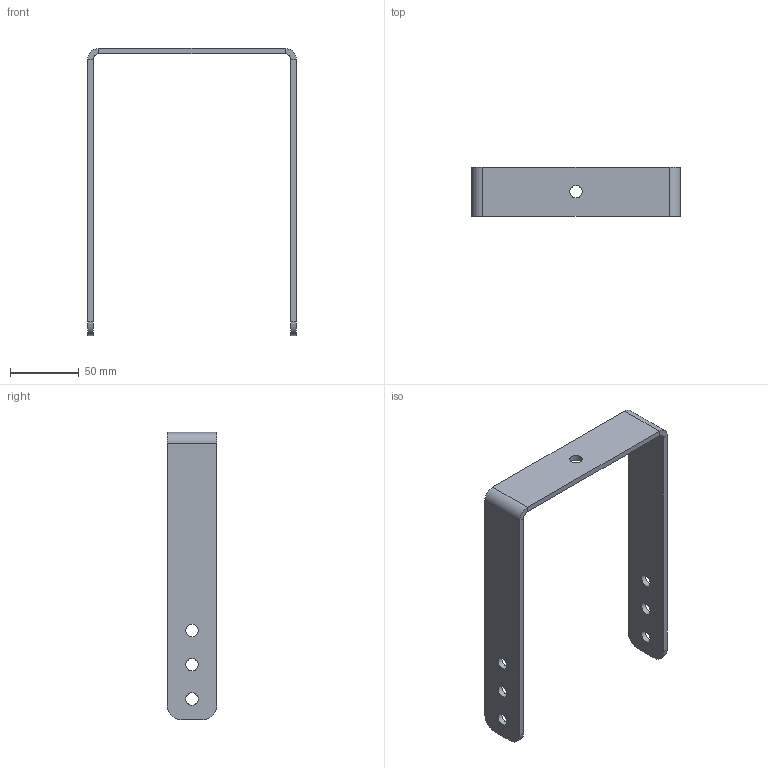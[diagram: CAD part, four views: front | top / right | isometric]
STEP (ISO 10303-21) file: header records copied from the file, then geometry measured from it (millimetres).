
FILE_DESCRIPTION(/* description */ (''),/* implementation_level */ '2;1');
FILE_NAME(/* name */ 'UB 4.stp',/* time_stamp */ '2024-09-26T16:00:53+02:00',/* author */ ('d.streicher'),/* organization */ (''),/* preprocessor_version */ 'ST-DEVELOPER v20',/* originating_system */ 'Autodesk Inventor 2025',/* authorisation */ '');
FILE_SCHEMA (('AUTOMOTIVE_DESIGN { 1 0 10303 214 3 1 1 }'));
Length unit declared in the file: millimetre
Products named in the file (1): UB 4
Bounding box: 152 x 36 x 209.5 mm (x, y, z)
Volume: 78205.7 mm3; surface area: 44576.7 mm2
Topology: 1 solids, 1 shells, 33 faces, 77 edges, 46 vertices
Faces by surface type: plane 18, cylinder 15
Full cylindrical faces by diameter (mm): 9 x7
Entity records: 1046 total; most frequent: DIRECTION 175, CARTESIAN_POINT 157, ORIENTED_EDGE 154, EDGE_CURVE 77, AXIS2_PLACEMENT_3D 64, EDGE_LOOP 47, LINE 47, VECTOR 47
